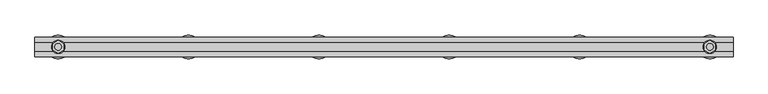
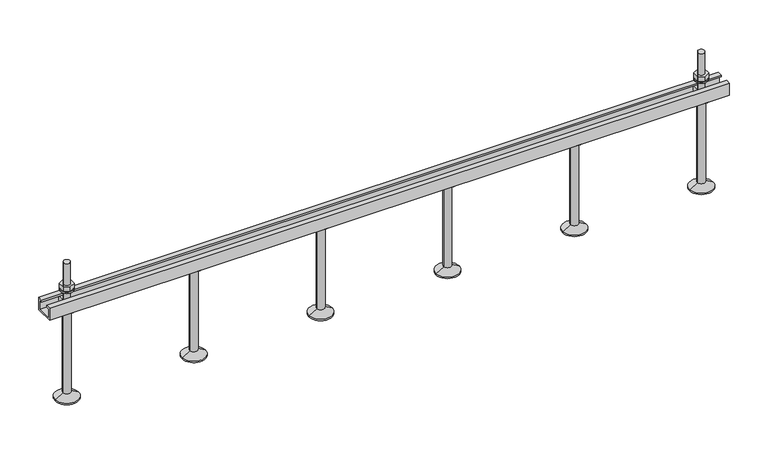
"""IFC4 building model written with IfcOpenShell, lengths in millimetres: fastener geometry, JXA(-PC) JORDAHL® toothed channels : JXA(-PC) L=1050 mm."""

from ifc_helpers import new_model, si_unit, point, frame, frame_2d, origin, place, context, project, spatial, polyline, circle_curve, trimmed, segment, composite_curve, outline, extrude, source, transform, mapped, element, save
from ifc_brep_helpers import plane_surface, cylinder_surface, revolved_surface, advanced_brep


def fastener_9a79e27e(model_context):
    return source(origin(), model_context, "Body", "SolidModel", [
        advanced_brep(
        [(819.0, 0.0, -20.0), (833.5, 0.0, -20.0), (804.5, 0.0, -20.0), (801.0, 0.0, -166.0), (837.0, 0.0, -166.0), (819.0, 0.0, -166.0), (801.0, 0.0, -164.0), (837.0, 0.0, -164.0), (813.0, 0.0, -157.0717968), (825.0, 0.0, -157.0717968), (813.0, 0.0, -22.5), (825.0, 0.0, -22.5)],
        [
            (0, 1),
            (1, 2, circle_curve(frame((819.0, 0.0, -20.0), z_axis=(0.0, 0.0, 1.0), x_axis=(1.0, 0.0, 0.0)), 14.5)),
            (2, 0),
            (2, 1, circle_curve(frame((819.0, 0.0, -20.0), z_axis=(0.0, 0.0, 1.0), x_axis=(1.0, 0.0, 0.0)), 14.5)),
            (3, 4, circle_curve(frame((819.0, 0.0, -166.0), z_axis=(0.0, 0.0, -1.0), x_axis=(1.0, 0.0, 0.0)), 18.0)),
            (4, 5),
            (5, 3),
            (4, 3, circle_curve(frame((819.0, 0.0, -166.0), z_axis=(0.0, 0.0, -1.0), x_axis=(1.0, 0.0, 0.0)), 18.0)),
            (6, 7, circle_curve(frame((819.0, 0.0, -164.0), z_axis=(0.0, 0.0, -1.0), x_axis=(1.0, 0.0, 0.0)), 18.0)),
            (7, 4),
            (3, 6),
            (7, 6, circle_curve(frame((819.0, 0.0, -164.0), z_axis=(0.0, 0.0, -1.0), x_axis=(1.0, 0.0, 0.0)), 18.0)),
            (8, 9, circle_curve(frame((819.0, 0.0, -157.0717968), z_axis=(0.0, 0.0, -1.0), x_axis=(1.0, 0.0, 0.0)), 6.0)),
            (9, 7),
            (6, 8),
            (9, 8, circle_curve(frame((819.0, 0.0, -157.0717968), z_axis=(0.0, 0.0, -1.0), x_axis=(1.0, 0.0, 0.0)), 6.0)),
            (10, 11, circle_curve(frame((819.0, 0.0, -22.5), z_axis=(0.0, 0.0, -1.0), x_axis=(1.0, 0.0, 0.0)), 6.0)),
            (11, 9),
            (8, 10),
            (11, 10, circle_curve(frame((819.0, 0.0, -22.5), z_axis=(0.0, 0.0, -1.0), x_axis=(1.0, 0.0, 0.0)), 6.0)),
            (1, 11),
            (10, 2),
        ],
        [
            plane_surface(frame((819.0, 0.0, -20.0), z_axis=(0.0, 0.0, 1.0), x_axis=(1.0, 0.0, 0.0))),
            plane_surface(frame((819.0, 0.0, -166.0), z_axis=(0.0, 0.0, -1.0), x_axis=(1.0, 0.0, 0.0))),
            cylinder_surface(frame((819.0, 0.0, 2214.3150031), z_axis=(0.0, 0.0, 1.0), x_axis=(1.0, 0.0, 0.0)), 18.0),
            revolved_surface(polyline([(837.0, 0.0, -164.0), (825.0, 0.0, -157.0717968)]), (819.0, 0.0, 2214.3150031), (0.0, 0.0, 1.0)),
            cylinder_surface(frame((819.0, 0.0, 2214.3150031), z_axis=(0.0, 0.0, 1.0), x_axis=(1.0, 0.0, 0.0)), 6.0),
            revolved_surface(polyline([(825.0, 0.0, -22.5), (833.5, 0.0, -20.0)]), (819.0, 0.0, 2214.3150031), (0.0, 0.0, 1.0)),
        ],
        [
            (0, [[1, 2, 3]]),
            (0, [[-3, 4, -1]]),
            (1, [[5, 6, 7]]),
            (1, [[8, -7, -6]]),
            (2, [[9, 10, -5, 11]]),
            (2, [[12, -11, -8, -10]]),
            (3, [[13, 14, -9, 15]]),
            (3, [[16, -15, -12, -14]]),
            (4, [[17, 18, -13, 19]]),
            (4, [[20, -19, -16, -18]]),
            (5, [[-2, 21, -17, 22]]),
            (5, [[-4, -22, -20, -21]]),
        ],
    ),
        advanced_brep(
        [(623.0, 0.0, -20.0), (637.5, 0.0, -20.0), (608.5, 0.0, -20.0), (605.0, 0.0, -166.0), (641.0, 0.0, -166.0), (623.0, 0.0, -166.0), (605.0, 0.0, -164.0), (641.0, 0.0, -164.0), (617.0, 0.0, -157.0717968), (629.0, 0.0, -157.0717968), (617.0, 0.0, -22.5), (629.0, 0.0, -22.5)],
        [
            (0, 1),
            (1, 2, circle_curve(frame((623.0, 0.0, -20.0), z_axis=(0.0, 0.0, 1.0), x_axis=(1.0, 0.0, 0.0)), 14.5)),
            (2, 0),
            (2, 1, circle_curve(frame((623.0, 0.0, -20.0), z_axis=(0.0, 0.0, 1.0), x_axis=(1.0, 0.0, 0.0)), 14.5)),
            (3, 4, circle_curve(frame((623.0, 0.0, -166.0), z_axis=(0.0, 0.0, -1.0), x_axis=(1.0, 0.0, 0.0)), 18.0)),
            (4, 5),
            (5, 3),
            (4, 3, circle_curve(frame((623.0, 0.0, -166.0), z_axis=(0.0, 0.0, -1.0), x_axis=(1.0, 0.0, 0.0)), 18.0)),
            (6, 7, circle_curve(frame((623.0, 0.0, -164.0), z_axis=(0.0, 0.0, -1.0), x_axis=(1.0, 0.0, 0.0)), 18.0)),
            (7, 4),
            (3, 6),
            (7, 6, circle_curve(frame((623.0, 0.0, -164.0), z_axis=(0.0, 0.0, -1.0), x_axis=(1.0, 0.0, 0.0)), 18.0)),
            (8, 9, circle_curve(frame((623.0, 0.0, -157.0717968), z_axis=(0.0, 0.0, -1.0), x_axis=(1.0, 0.0, 0.0)), 6.0)),
            (9, 7),
            (6, 8),
            (9, 8, circle_curve(frame((623.0, 0.0, -157.0717968), z_axis=(0.0, 0.0, -1.0), x_axis=(1.0, 0.0, 0.0)), 6.0)),
            (10, 11, circle_curve(frame((623.0, 0.0, -22.5), z_axis=(0.0, 0.0, -1.0), x_axis=(1.0, 0.0, 0.0)), 6.0)),
            (11, 9),
            (8, 10),
            (11, 10, circle_curve(frame((623.0, 0.0, -22.5), z_axis=(0.0, 0.0, -1.0), x_axis=(1.0, 0.0, 0.0)), 6.0)),
            (1, 11),
            (10, 2),
        ],
        [
            plane_surface(frame((623.0, 0.0, -20.0), z_axis=(0.0, 0.0, 1.0), x_axis=(1.0, 0.0, 0.0))),
            plane_surface(frame((623.0, 0.0, -166.0), z_axis=(0.0, 0.0, -1.0), x_axis=(1.0, 0.0, 0.0))),
            cylinder_surface(frame((623.0, 0.0, 2214.3150031), z_axis=(0.0, 0.0, 1.0), x_axis=(1.0, 0.0, 0.0)), 18.0),
            revolved_surface(polyline([(641.0, 0.0, -164.0), (629.0, 0.0, -157.0717968)]), (623.0, 0.0, 2214.3150031), (0.0, 0.0, 1.0)),
            cylinder_surface(frame((623.0, 0.0, 2214.3150031), z_axis=(0.0, 0.0, 1.0), x_axis=(1.0, 0.0, 0.0)), 6.0),
            revolved_surface(polyline([(629.0, 0.0, -22.5), (637.5, 0.0, -20.0)]), (623.0, 0.0, 2214.3150031), (0.0, 0.0, 1.0)),
        ],
        [
            (0, [[1, 2, 3]]),
            (0, [[-3, 4, -1]]),
            (1, [[5, 6, 7]]),
            (1, [[8, -7, -6]]),
            (2, [[9, 10, -5, 11]]),
            (2, [[12, -11, -8, -10]]),
            (3, [[13, 14, -9, 15]]),
            (3, [[16, -15, -12, -14]]),
            (4, [[17, 18, -13, 19]]),
            (4, [[20, -19, -16, -18]]),
            (5, [[-2, 21, -17, 22]]),
            (5, [[-4, -22, -20, -21]]),
        ],
    ),
        advanced_brep(
        [(427.0, 0.0, -20.0), (441.5, 0.0, -20.0), (412.5, 0.0, -20.0), (409.0, 0.0, -166.0), (445.0, 0.0, -166.0), (427.0, 0.0, -166.0), (409.0, 0.0, -164.0), (445.0, 0.0, -164.0), (421.0, 0.0, -157.0717968), (433.0, 0.0, -157.0717968), (421.0, 0.0, -22.5), (433.0, 0.0, -22.5)],
        [
            (0, 1),
            (1, 2, circle_curve(frame((427.0, 0.0, -20.0), z_axis=(0.0, 0.0, 1.0), x_axis=(1.0, 0.0, 0.0)), 14.5)),
            (2, 0),
            (2, 1, circle_curve(frame((427.0, 0.0, -20.0), z_axis=(0.0, 0.0, 1.0), x_axis=(1.0, 0.0, 0.0)), 14.5)),
            (3, 4, circle_curve(frame((427.0, 0.0, -166.0), z_axis=(0.0, 0.0, -1.0), x_axis=(1.0, 0.0, 0.0)), 18.0)),
            (4, 5),
            (5, 3),
            (4, 3, circle_curve(frame((427.0, 0.0, -166.0), z_axis=(0.0, 0.0, -1.0), x_axis=(1.0, 0.0, 0.0)), 18.0)),
            (6, 7, circle_curve(frame((427.0, 0.0, -164.0), z_axis=(0.0, 0.0, -1.0), x_axis=(1.0, 0.0, 0.0)), 18.0)),
            (7, 4),
            (3, 6),
            (7, 6, circle_curve(frame((427.0, 0.0, -164.0), z_axis=(0.0, 0.0, -1.0), x_axis=(1.0, 0.0, 0.0)), 18.0)),
            (8, 9, circle_curve(frame((427.0, 0.0, -157.0717968), z_axis=(0.0, 0.0, -1.0), x_axis=(1.0, 0.0, 0.0)), 6.0)),
            (9, 7),
            (6, 8),
            (9, 8, circle_curve(frame((427.0, 0.0, -157.0717968), z_axis=(0.0, 0.0, -1.0), x_axis=(1.0, 0.0, 0.0)), 6.0)),
            (10, 11, circle_curve(frame((427.0, 0.0, -22.5), z_axis=(0.0, 0.0, -1.0), x_axis=(1.0, 0.0, 0.0)), 6.0)),
            (11, 9),
            (8, 10),
            (11, 10, circle_curve(frame((427.0, 0.0, -22.5), z_axis=(0.0, 0.0, -1.0), x_axis=(1.0, 0.0, 0.0)), 6.0)),
            (1, 11),
            (10, 2),
        ],
        [
            plane_surface(frame((427.0, 0.0, -20.0), z_axis=(0.0, 0.0, 1.0), x_axis=(1.0, 0.0, 0.0))),
            plane_surface(frame((427.0, 0.0, -166.0), z_axis=(0.0, 0.0, -1.0), x_axis=(1.0, 0.0, 0.0))),
            cylinder_surface(frame((427.0, 0.0, 2214.3150031), z_axis=(0.0, 0.0, 1.0), x_axis=(1.0, 0.0, 0.0)), 18.0),
            revolved_surface(polyline([(445.0, 0.0, -164.0), (433.0, 0.0, -157.0717968)]), (427.0, 0.0, 2214.3150031), (0.0, 0.0, 1.0)),
            cylinder_surface(frame((427.0, 0.0, 2214.3150031), z_axis=(0.0, 0.0, 1.0), x_axis=(1.0, 0.0, 0.0)), 6.0),
            revolved_surface(polyline([(433.0, 0.0, -22.5), (441.5, 0.0, -20.0)]), (427.0, 0.0, 2214.3150031), (0.0, 0.0, 1.0)),
        ],
        [
            (0, [[1, 2, 3]]),
            (0, [[-3, 4, -1]]),
            (1, [[5, 6, 7]]),
            (1, [[8, -7, -6]]),
            (2, [[9, 10, -5, 11]]),
            (2, [[12, -11, -8, -10]]),
            (3, [[13, 14, -9, 15]]),
            (3, [[16, -15, -12, -14]]),
            (4, [[17, 18, -13, 19]]),
            (4, [[20, -19, -16, -18]]),
            (5, [[-2, 21, -17, 22]]),
            (5, [[-4, -22, -20, -21]]),
        ],
    ),
        advanced_brep(
        [(231.0, 0.0, -20.0), (245.5, 0.0, -20.0), (216.5, 0.0, -20.0), (213.0, 0.0, -166.0), (249.0, 0.0, -166.0), (231.0, 0.0, -166.0), (213.0, 0.0, -164.0), (249.0, 0.0, -164.0), (225.0, 0.0, -157.0717968), (237.0, 0.0, -157.0717968), (225.0, 0.0, -22.5), (237.0, 0.0, -22.5)],
        [
            (0, 1),
            (1, 2, circle_curve(frame((231.0, 0.0, -20.0), z_axis=(0.0, 0.0, 1.0), x_axis=(1.0, 0.0, 0.0)), 14.5)),
            (2, 0),
            (2, 1, circle_curve(frame((231.0, 0.0, -20.0), z_axis=(0.0, 0.0, 1.0), x_axis=(1.0, 0.0, 0.0)), 14.5)),
            (3, 4, circle_curve(frame((231.0, 0.0, -166.0), z_axis=(0.0, 0.0, -1.0), x_axis=(1.0, 0.0, 0.0)), 18.0)),
            (4, 5),
            (5, 3),
            (4, 3, circle_curve(frame((231.0, 0.0, -166.0), z_axis=(0.0, 0.0, -1.0), x_axis=(1.0, 0.0, 0.0)), 18.0)),
            (6, 7, circle_curve(frame((231.0, 0.0, -164.0), z_axis=(0.0, 0.0, -1.0), x_axis=(1.0, 0.0, 0.0)), 18.0)),
            (7, 4),
            (3, 6),
            (7, 6, circle_curve(frame((231.0, 0.0, -164.0), z_axis=(0.0, 0.0, -1.0), x_axis=(1.0, 0.0, 0.0)), 18.0)),
            (8, 9, circle_curve(frame((231.0, 0.0, -157.0717968), z_axis=(0.0, 0.0, -1.0), x_axis=(1.0, 0.0, 0.0)), 6.0)),
            (9, 7),
            (6, 8),
            (9, 8, circle_curve(frame((231.0, 0.0, -157.0717968), z_axis=(0.0, 0.0, -1.0), x_axis=(1.0, 0.0, 0.0)), 6.0)),
            (10, 11, circle_curve(frame((231.0, 0.0, -22.5), z_axis=(0.0, 0.0, -1.0), x_axis=(1.0, 0.0, 0.0)), 6.0)),
            (11, 9),
            (8, 10),
            (11, 10, circle_curve(frame((231.0, 0.0, -22.5), z_axis=(0.0, 0.0, -1.0), x_axis=(1.0, 0.0, 0.0)), 6.0)),
            (1, 11),
            (10, 2),
        ],
        [
            plane_surface(frame((231.0, 0.0, -20.0), z_axis=(0.0, 0.0, 1.0), x_axis=(1.0, 0.0, 0.0))),
            plane_surface(frame((231.0, 0.0, -166.0), z_axis=(0.0, 0.0, -1.0), x_axis=(1.0, 0.0, 0.0))),
            cylinder_surface(frame((231.0, 0.0, 2214.3150031), z_axis=(0.0, 0.0, 1.0), x_axis=(1.0, 0.0, 0.0)), 18.0),
            revolved_surface(polyline([(249.0, 0.0, -164.0), (237.0, 0.0, -157.0717968)]), (231.0, 0.0, 2214.3150031), (0.0, 0.0, 1.0)),
            cylinder_surface(frame((231.0, 0.0, 2214.3150031), z_axis=(0.0, 0.0, 1.0), x_axis=(1.0, 0.0, 0.0)), 6.0),
            revolved_surface(polyline([(237.0, 0.0, -22.5), (245.5, 0.0, -20.0)]), (231.0, 0.0, 2214.3150031), (0.0, 0.0, 1.0)),
        ],
        [
            (0, [[1, 2, 3]]),
            (0, [[-3, 4, -1]]),
            (1, [[5, 6, 7]]),
            (1, [[8, -7, -6]]),
            (2, [[9, 10, -5, 11]]),
            (2, [[12, -11, -8, -10]]),
            (3, [[13, 14, -9, 15]]),
            (3, [[16, -15, -12, -14]]),
            (4, [[17, 18, -13, 19]]),
            (4, [[20, -19, -16, -18]]),
            (5, [[-2, 21, -17, 22]]),
            (5, [[-4, -22, -20, -21]]),
        ],
    ),
        extrude(outline(composite_curve([segment(trimmed(circle_curve(frame_2d((1015.0, 0.0)), 10.0), [point((1005.0, 0.0))], [point((1025.0, 0.0))], False, "CARTESIAN"), True, "CONTINUOUS"), segment(trimmed(circle_curve(frame_2d((1015.0, 0.0)), 10.0), [point((1025.0, 0.0))], [point((1005.0, 0.0))], False, "CARTESIAN"), True, "CONTINUOUS")], self_intersect=False), holes=[composite_curve([segment(trimmed(circle_curve(frame_2d((1015.0, 0.0)), 5.5), [point((1009.5, 0.0))], [point((1020.5, 0.0))], True, "CARTESIAN"), True, "CONTINUOUS"), segment(trimmed(circle_curve(frame_2d((1015.0, 0.0)), 5.5), [point((1020.5, 0.0))], [point((1009.5, 0.0))], True, "CARTESIAN"), True, "CONTINUOUS")], self_intersect=False)]), frame((0.0, 0.0, 10.0), z_axis=(0.0, 0.0, 1.0), x_axis=(1.0, 0.0, 0.0)), (0.0, 0.0, 1.0), 2.0),
        extrude(outline(polyline([(1015.0, 9.8149546), (1023.5, 4.9074773), (1023.5, -4.9074773), (1015.0, -9.8149546), (1006.5, -4.9074773), (1006.5, 4.9074773), (1015.0, 9.8149546)]), holes=[composite_curve([segment(trimmed(circle_curve(frame_2d((1015.0, 0.0)), 5.0), [point((1010.0, 0.0))], [point((1020.0, 0.0))], True, "CARTESIAN"), True, "CONTINUOUS"), segment(trimmed(circle_curve(frame_2d((1015.0, 0.0)), 5.0), [point((1020.0, 0.0))], [point((1010.0, 0.0))], True, "CARTESIAN"), True, "CONTINUOUS")], self_intersect=False)]), frame((0.0, 0.0, 12.0), z_axis=(0.0, 0.0, 1.0), x_axis=(1.0, 0.0, 0.0)), (0.0, 0.0, 1.0), 8.0),
        advanced_brep(
        [(1021.5, 10.5, -5.0), (1021.5, -10.5, -5.0), (1021.5, -10.5, -12.0), (1021.5, 10.5, -12.0), (1008.5, 10.5, -5.0), (1008.5, 10.5, -12.0), (1008.5, -10.5, -12.0), (1008.5, -10.5, -5.0), (1020.0, 0.0, -5.0), (1010.0, 0.0, -5.0), (1010.0, 0.0, 55.0), (1020.0, 0.0, 55.0)],
        [
            (0, 1),
            (1, 2),
            (2, 3),
            (3, 0),
            (4, 5),
            (5, 6),
            (6, 7),
            (7, 4),
            (0, 4),
            (7, 1),
            (8, 9, circle_curve(frame((1015.0, 0.0, -5.0), z_axis=(0.0, 0.0, -1.0), x_axis=(1.0, 0.0, 0.0)), 5.0)),
            (9, 8, circle_curve(frame((1015.0, 0.0, -5.0), z_axis=(0.0, 0.0, -1.0), x_axis=(1.0, 0.0, 0.0)), 5.0)),
            (6, 2),
            (5, 3),
            (10, 11, circle_curve(frame((1015.0, 0.0, 55.0), z_axis=(0.0, 0.0, 1.0), x_axis=(1.0, 0.0, 0.0)), 5.0)),
            (11, 10, circle_curve(frame((1015.0, 0.0, 55.0), z_axis=(0.0, 0.0, 1.0), x_axis=(1.0, 0.0, 0.0)), 5.0)),
            (10, 9),
            (8, 11),
        ],
        [
            plane_surface(frame((1021.5, -10.5, -5.0), z_axis=(1.0, 0.0, 0.0), x_axis=(0.0, -1.0, 0.0))),
            plane_surface(frame((1008.5, -10.5, -5.0), z_axis=(-1.0, 0.0, 0.0), x_axis=(0.0, 1.0, 0.0))),
            plane_surface(frame((1021.5, 10.5, -5.0), z_axis=(0.0, 0.0, 1.0), x_axis=(-1.0, 0.0, 0.0))),
            plane_surface(frame((1021.5, -10.5, -5.0), z_axis=(0.0, -1.0, 0.0), x_axis=(-1.0, 0.0, 0.0))),
            plane_surface(frame((1021.5, -10.5, -12.0), z_axis=(0.0, 0.0, -1.0), x_axis=(-1.0, 0.0, 0.0))),
            plane_surface(frame((1021.5, 10.5, -12.0), z_axis=(0.0, 1.0, 0.0), x_axis=(-1.0, 0.0, 0.0))),
            plane_surface(frame((1020.0, 0.0, 55.0), z_axis=(0.0, 0.0, 1.0), x_axis=(0.0, 1.0, 0.0))),
            cylinder_surface(frame((1015.0, 0.0, -5.0), z_axis=(0.0, 0.0, 1.0), x_axis=(1.0, 0.0, 0.0)), 5.0),
        ],
        [
            (0, [[1, 2, 3, 4]]),
            (1, [[5, 6, 7, 8]]),
            (2, [[-1, 9, -8, 10], [11, 12]]),
            (3, [[-2, -10, -7, 13]]),
            (4, [[-3, -13, -6, 14]]),
            (5, [[-4, -14, -5, -9]]),
            (6, [[15, 16]]),
            (7, [[-15, 17, -11, 18]]),
            (7, [[-16, -18, -12, -17]]),
        ],
    ),
        extrude(outline(composite_curve([segment(trimmed(circle_curve(frame_2d((35.0, 0.0)), 10.0), [point((25.0, 0.0))], [point((45.0, 0.0))], False, "CARTESIAN"), True, "CONTINUOUS"), segment(trimmed(circle_curve(frame_2d((35.0, 0.0)), 10.0), [point((45.0, 0.0))], [point((25.0, 0.0))], False, "CARTESIAN"), True, "CONTINUOUS")], self_intersect=False), holes=[composite_curve([segment(trimmed(circle_curve(frame_2d((35.0, 0.0)), 5.5), [point((29.5, 0.0))], [point((40.5, 0.0))], True, "CARTESIAN"), True, "CONTINUOUS"), segment(trimmed(circle_curve(frame_2d((35.0, 0.0)), 5.5), [point((40.5, 0.0))], [point((29.5, 0.0))], True, "CARTESIAN"), True, "CONTINUOUS")], self_intersect=False)]), frame((0.0, 0.0, 10.0), z_axis=(0.0, 0.0, 1.0), x_axis=(1.0, 0.0, 0.0)), (0.0, 0.0, 1.0), 2.0),
        extrude(outline(polyline([(35.0, 9.8149546), (43.5, 4.9074773), (43.5, -4.9074773), (35.0, -9.8149546), (26.5, -4.9074773), (26.5, 4.9074773), (35.0, 9.8149546)]), holes=[composite_curve([segment(trimmed(circle_curve(frame_2d((35.0, 0.0)), 5.0), [point((30.0, 0.0))], [point((40.0, 0.0))], True, "CARTESIAN"), True, "CONTINUOUS"), segment(trimmed(circle_curve(frame_2d((35.0, 0.0)), 5.0), [point((40.0, 0.0))], [point((30.0, 0.0))], True, "CARTESIAN"), True, "CONTINUOUS")], self_intersect=False)]), frame((0.0, 0.0, 12.0), z_axis=(0.0, 0.0, 1.0), x_axis=(1.0, 0.0, 0.0)), (0.0, 0.0, 1.0), 8.0),
        advanced_brep(
        [(41.5, 10.5, -5.0), (41.5, -10.5, -5.0), (41.5, -10.5, -12.0), (41.5, 10.5, -12.0), (28.5, 10.5, -5.0), (28.5, 10.5, -12.0), (28.5, -10.5, -12.0), (28.5, -10.5, -5.0), (40.0, 0.0, -5.0), (30.0, 0.0, -5.0), (30.0, 0.0, 55.0), (40.0, 0.0, 55.0)],
        [
            (0, 1),
            (1, 2),
            (2, 3),
            (3, 0),
            (4, 5),
            (5, 6),
            (6, 7),
            (7, 4),
            (0, 4),
            (7, 1),
            (8, 9, circle_curve(frame((35.0, 0.0, -5.0), z_axis=(0.0, 0.0, -1.0), x_axis=(1.0, 0.0, 0.0)), 5.0)),
            (9, 8, circle_curve(frame((35.0, 0.0, -5.0), z_axis=(0.0, 0.0, -1.0), x_axis=(1.0, 0.0, 0.0)), 5.0)),
            (6, 2),
            (5, 3),
            (10, 11, circle_curve(frame((35.0, 0.0, 55.0), z_axis=(0.0, 0.0, 1.0), x_axis=(1.0, 0.0, 0.0)), 5.0)),
            (11, 10, circle_curve(frame((35.0, 0.0, 55.0), z_axis=(0.0, 0.0, 1.0), x_axis=(1.0, 0.0, 0.0)), 5.0)),
            (10, 9),
            (8, 11),
        ],
        [
            plane_surface(frame((41.5, -10.5, -5.0), z_axis=(1.0, 0.0, 0.0), x_axis=(0.0, -1.0, 0.0))),
            plane_surface(frame((28.5, -10.5, -5.0), z_axis=(-1.0, 0.0, 0.0), x_axis=(0.0, 1.0, 0.0))),
            plane_surface(frame((41.5, 10.5, -5.0), z_axis=(0.0, 0.0, 1.0), x_axis=(-1.0, 0.0, 0.0))),
            plane_surface(frame((41.5, -10.5, -5.0), z_axis=(0.0, -1.0, 0.0), x_axis=(-1.0, 0.0, 0.0))),
            plane_surface(frame((41.5, -10.5, -12.0), z_axis=(0.0, 0.0, -1.0), x_axis=(-1.0, 0.0, 0.0))),
            plane_surface(frame((41.5, 10.5, -12.0), z_axis=(0.0, 1.0, 0.0), x_axis=(-1.0, 0.0, 0.0))),
            plane_surface(frame((40.0, 0.0, 55.0), z_axis=(0.0, 0.0, 1.0), x_axis=(0.0, 1.0, 0.0))),
            cylinder_surface(frame((35.0, 0.0, -5.0), z_axis=(0.0, 0.0, 1.0), x_axis=(1.0, 0.0, 0.0)), 5.0),
        ],
        [
            (0, [[1, 2, 3, 4]]),
            (1, [[5, 6, 7, 8]]),
            (2, [[-1, 9, -8, 10], [11, 12]]),
            (3, [[-2, -10, -7, 13]]),
            (4, [[-3, -13, -6, 14]]),
            (5, [[-4, -14, -5, -9]]),
            (6, [[15, 16]]),
            (7, [[-15, 17, -11, 18]]),
            (7, [[-16, -18, -12, -17]]),
        ],
    ),
        advanced_brep(
        [(1015.0, 0.0, -20.0), (1029.5, 0.0, -20.0), (1000.5, 0.0, -20.0), (997.0, 0.0, -166.0), (1033.0, 0.0, -166.0), (1015.0, 0.0, -166.0), (997.0, 0.0, -164.0), (1033.0, 0.0, -164.0), (1009.0, 0.0, -157.0717968), (1021.0, 0.0, -157.0717968), (1009.0, 0.0, -22.5), (1021.0, 0.0, -22.5)],
        [
            (0, 1),
            (1, 2, circle_curve(frame((1015.0, 0.0, -20.0), z_axis=(0.0, 0.0, 1.0), x_axis=(1.0, 0.0, 0.0)), 14.5)),
            (2, 0),
            (2, 1, circle_curve(frame((1015.0, 0.0, -20.0), z_axis=(0.0, 0.0, 1.0), x_axis=(1.0, 0.0, 0.0)), 14.5)),
            (3, 4, circle_curve(frame((1015.0, 0.0, -166.0), z_axis=(0.0, 0.0, -1.0), x_axis=(1.0, 0.0, 0.0)), 18.0)),
            (4, 5),
            (5, 3),
            (4, 3, circle_curve(frame((1015.0, 0.0, -166.0), z_axis=(0.0, 0.0, -1.0), x_axis=(1.0, 0.0, 0.0)), 18.0)),
            (6, 7, circle_curve(frame((1015.0, 0.0, -164.0), z_axis=(0.0, 0.0, -1.0), x_axis=(1.0, 0.0, 0.0)), 18.0)),
            (7, 4),
            (3, 6),
            (7, 6, circle_curve(frame((1015.0, 0.0, -164.0), z_axis=(0.0, 0.0, -1.0), x_axis=(1.0, 0.0, 0.0)), 18.0)),
            (8, 9, circle_curve(frame((1015.0, 0.0, -157.0717968), z_axis=(0.0, 0.0, -1.0), x_axis=(1.0, 0.0, 0.0)), 6.0)),
            (9, 7),
            (6, 8),
            (9, 8, circle_curve(frame((1015.0, 0.0, -157.0717968), z_axis=(0.0, 0.0, -1.0), x_axis=(1.0, 0.0, 0.0)), 6.0)),
            (10, 11, circle_curve(frame((1015.0, 0.0, -22.5), z_axis=(0.0, 0.0, -1.0), x_axis=(1.0, 0.0, 0.0)), 6.0)),
            (11, 9),
            (8, 10),
            (11, 10, circle_curve(frame((1015.0, 0.0, -22.5), z_axis=(0.0, 0.0, -1.0), x_axis=(1.0, 0.0, 0.0)), 6.0)),
            (1, 11),
            (10, 2),
        ],
        [
            plane_surface(frame((1015.0, 0.0, -20.0), z_axis=(0.0, 0.0, 1.0), x_axis=(1.0, 0.0, 0.0))),
            plane_surface(frame((1015.0, 0.0, -166.0), z_axis=(0.0, 0.0, -1.0), x_axis=(1.0, 0.0, 0.0))),
            cylinder_surface(frame((1015.0, 0.0, 2214.3150031), z_axis=(0.0, 0.0, 1.0), x_axis=(1.0, 0.0, 0.0)), 18.0),
            revolved_surface(polyline([(1033.0, 0.0, -164.0), (1021.0, 0.0, -157.0717968)]), (1015.0, 0.0, 2214.3150031), (0.0, 0.0, 1.0)),
            cylinder_surface(frame((1015.0, 0.0, 2214.3150031), z_axis=(0.0, 0.0, 1.0), x_axis=(1.0, 0.0, 0.0)), 6.0),
            revolved_surface(polyline([(1021.0, 0.0, -22.5), (1029.5, 0.0, -20.0)]), (1015.0, 0.0, 2214.3150031), (0.0, 0.0, 1.0)),
        ],
        [
            (0, [[1, 2, 3]]),
            (0, [[-3, 4, -1]]),
            (1, [[5, 6, 7]]),
            (1, [[8, -7, -6]]),
            (2, [[9, 10, -5, 11]]),
            (2, [[12, -11, -8, -10]]),
            (3, [[13, 14, -9, 15]]),
            (3, [[16, -15, -12, -14]]),
            (4, [[17, 18, -13, 19]]),
            (4, [[20, -19, -16, -18]]),
            (5, [[-2, 21, -17, 22]]),
            (5, [[-4, -22, -20, -21]]),
        ],
    ),
        advanced_brep(
        [(35.0, 0.0, -20.0), (49.5, 0.0, -20.0), (20.5, 0.0, -20.0), (17.0, 0.0, -166.0), (53.0, 0.0, -166.0), (35.0, 0.0, -166.0), (17.0, 0.0, -164.0), (53.0, 0.0, -164.0), (29.0, 0.0, -157.0717968), (41.0, 0.0, -157.0717968), (29.0, 0.0, -22.5), (41.0, 0.0, -22.5)],
        [
            (0, 1),
            (1, 2, circle_curve(frame((35.0, 0.0, -20.0), z_axis=(0.0, 0.0, 1.0), x_axis=(1.0, 0.0, 0.0)), 14.5)),
            (2, 0),
            (2, 1, circle_curve(frame((35.0, 0.0, -20.0), z_axis=(0.0, 0.0, 1.0), x_axis=(1.0, 0.0, 0.0)), 14.5)),
            (3, 4, circle_curve(frame((35.0, 0.0, -166.0), z_axis=(0.0, 0.0, -1.0), x_axis=(1.0, 0.0, 0.0)), 18.0)),
            (4, 5),
            (5, 3),
            (4, 3, circle_curve(frame((35.0, 0.0, -166.0), z_axis=(0.0, 0.0, -1.0), x_axis=(1.0, 0.0, 0.0)), 18.0)),
            (6, 7, circle_curve(frame((35.0, 0.0, -164.0), z_axis=(0.0, 0.0, -1.0), x_axis=(1.0, 0.0, 0.0)), 18.0)),
            (7, 4),
            (3, 6),
            (7, 6, circle_curve(frame((35.0, 0.0, -164.0), z_axis=(0.0, 0.0, -1.0), x_axis=(1.0, 0.0, 0.0)), 18.0)),
            (8, 9, circle_curve(frame((35.0, 0.0, -157.0717968), z_axis=(0.0, 0.0, -1.0), x_axis=(1.0, 0.0, 0.0)), 6.0)),
            (9, 7),
            (6, 8),
            (9, 8, circle_curve(frame((35.0, 0.0, -157.0717968), z_axis=(0.0, 0.0, -1.0), x_axis=(1.0, 0.0, 0.0)), 6.0)),
            (10, 11, circle_curve(frame((35.0, 0.0, -22.5), z_axis=(0.0, 0.0, -1.0), x_axis=(1.0, 0.0, 0.0)), 6.0)),
            (11, 9),
            (8, 10),
            (11, 10, circle_curve(frame((35.0, 0.0, -22.5), z_axis=(0.0, 0.0, -1.0), x_axis=(1.0, 0.0, 0.0)), 6.0)),
            (1, 11),
            (10, 2),
        ],
        [
            plane_surface(frame((35.0, 0.0, -20.0), z_axis=(0.0, 0.0, 1.0), x_axis=(1.0, 0.0, 0.0))),
            plane_surface(frame((35.0, 0.0, -166.0), z_axis=(0.0, 0.0, -1.0), x_axis=(1.0, 0.0, 0.0))),
            cylinder_surface(frame((35.0, 0.0, 2214.3150031), z_axis=(0.0, 0.0, 1.0), x_axis=(1.0, 0.0, 0.0)), 18.0),
            revolved_surface(polyline([(53.0, 0.0, -164.0), (41.0, 0.0, -157.0717968)]), (35.0, 0.0, 2214.3150031), (0.0, 0.0, 1.0)),
            cylinder_surface(frame((35.0, 0.0, 2214.3150031), z_axis=(0.0, 0.0, 1.0), x_axis=(1.0, 0.0, 0.0)), 6.0),
            revolved_surface(polyline([(41.0, 0.0, -22.5), (49.5, 0.0, -20.0)]), (35.0, 0.0, 2214.3150031), (0.0, 0.0, 1.0)),
        ],
        [
            (0, [[1, 2, 3]]),
            (0, [[-3, 4, -1]]),
            (1, [[5, 6, 7]]),
            (1, [[8, -7, -6]]),
            (2, [[9, 10, -5, 11]]),
            (2, [[12, -11, -8, -10]]),
            (3, [[13, 14, -9, 15]]),
            (3, [[16, -15, -12, -14]]),
            (4, [[17, 18, -13, 19]]),
            (4, [[20, -19, -16, -18]]),
            (5, [[-2, 21, -17, 22]]),
            (5, [[-4, -22, -20, -21]]),
        ],
    ),
        extrude(outline(polyline([(14.5, 0.0), (14.5, -20.0), (-14.5, -20.0), (-14.5, 0.0), (-7.0, 0.0), (-7.0, -3.0), (-12.0, -3.0), (-12.0, -17.5), (12.0, -17.5), (12.0, -3.0), (7.0, -3.0), (7.0, 0.0), (14.5, 0.0)])), frame((0.0, 0.0, 0.0), z_axis=(1.0, 0.0, 0.0), x_axis=(0.0, 1.0, 0.0)), (0.0, 0.0, 1.0), 1050.0),
    ])


if __name__ == "__main__":
    model = new_model("IFC4")
    model_context = context("Model", 3, world=origin())
    ifc_project = project(units=[si_unit("LENGTHUNIT", "METRE", prefix="MILLI")], contexts=[model_context])
    site = spatial("IfcSite", under=ifc_project)
    building = spatial("IfcBuilding", under=site)
    placement = place(None, origin())
    fastener_shape = fastener_9a79e27e(model_context)
    element("IfcFastener", 1, ObjectType="JXA(-PC) JORDAHL® toothed channels : JXA(-PC) L=1050 mm", at=placement, inside=building, context=model_context, shape_type="MappedRepresentation", body=[
        mapped(fastener_shape, transform((0.0, 0.0, 0.0), x_axis=(1.0, 0.0, 0.0), y_axis=(0.0, 1.0, 0.0), z_axis=(0.0, 0.0, 1.0))),
    ])
    save(model, "model.ifc")
